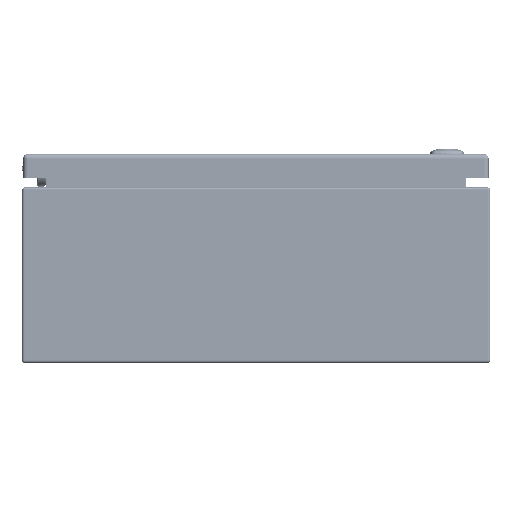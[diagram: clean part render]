
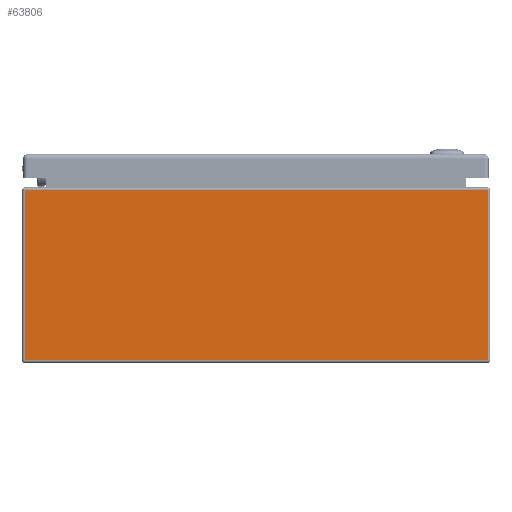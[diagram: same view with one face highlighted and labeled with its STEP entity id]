
A CAD part, front view. The second image highlights one B-rep face of the part: STEP entity #63806.
In plain terms, the highlighted planar face has unit normal (0, -1, 0).
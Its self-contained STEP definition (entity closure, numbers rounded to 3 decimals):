
#6080=LINE('',#90102,#10046);
#6087=LINE('',#90117,#10053);
#6089=LINE('',#90124,#10055);
#6091=LINE('',#90133,#10057);
#10046=VECTOR('',#74594,0.394);
#10053=VECTOR('',#74607,0.394);
#10055=VECTOR('',#74615,0.394);
#10057=VECTOR('',#74627,0.394);
#15070=FACE_OUTER_BOUND('',#19062,.T.);
#19062=EDGE_LOOP('',(#42505,#42506,#42507,#42508));
#25742=VERTEX_POINT('',#90072);
#25749=VERTEX_POINT('',#90098);
#25754=VERTEX_POINT('',#90116);
#25756=VERTEX_POINT('',#90122);
#32176=EDGE_CURVE('',#25742,#25749,#6080,.T.);
#32183=EDGE_CURVE('',#25749,#25754,#6087,.T.);
#32187=EDGE_CURVE('',#25756,#25742,#6089,.T.);
#32192=EDGE_CURVE('',#25756,#25754,#6091,.T.);
#42505=ORIENTED_EDGE('',*,*,#32176,.F.);
#42506=ORIENTED_EDGE('',*,*,#32187,.F.);
#42507=ORIENTED_EDGE('',*,*,#32192,.T.);
#42508=ORIENTED_EDGE('',*,*,#32183,.F.);
#62425=PLANE('',#68698);
#63806=ADVANCED_FACE('',(#15070),#62425,.F.);
#68698=AXIS2_PLACEMENT_3D('',#90144,#74641,#74642);
#74594=DIRECTION('',(1.,0.,0.));
#74607=DIRECTION('',(0.,0.,-1.));
#74615=DIRECTION('',(0.,0.,1.));
#74627=DIRECTION('',(1.,0.,0.));
#74641=DIRECTION('center_axis',(0.,1.,0.));
#74642=DIRECTION('ref_axis',(0.,0.,1.));
#90072=CARTESIAN_POINT('',(-7.916,-10.,5.916));
#90098=CARTESIAN_POINT('',(7.916,-10.,5.916));
#90102=CARTESIAN_POINT('',(3.979,-10.,5.916));
#90116=CARTESIAN_POINT('',(7.916,-10.,0.084));
#90117=CARTESIAN_POINT('',(7.916,-10.,3.));
#90122=CARTESIAN_POINT('',(-7.916,-10.,0.084));
#90124=CARTESIAN_POINT('',(-7.916,-10.,3.));
#90133=CARTESIAN_POINT('',(-3.958,-10.,0.084));
#90144=CARTESIAN_POINT('Origin',(0.,-10.,3.));
